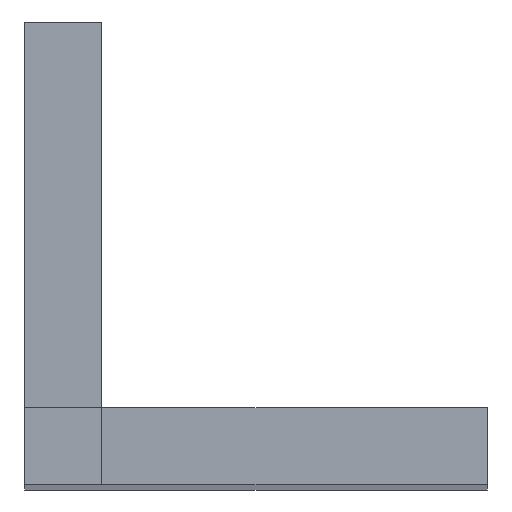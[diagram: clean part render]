
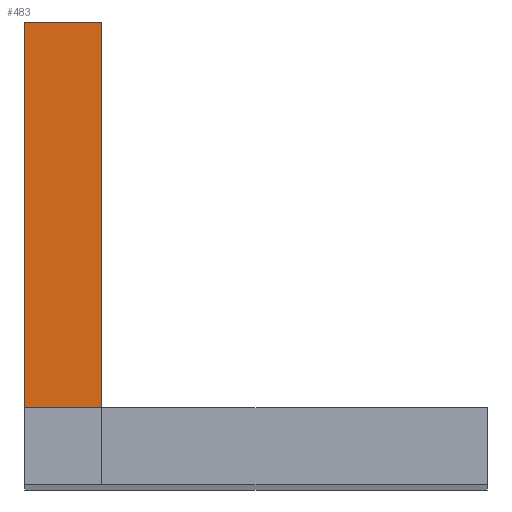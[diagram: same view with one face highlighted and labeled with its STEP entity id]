
A CAD part, top view. The second image highlights one B-rep face of the part: STEP entity #483.
In plain terms, the highlighted planar face has unit normal (0, 0, 1).
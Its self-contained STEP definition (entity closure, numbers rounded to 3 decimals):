
#85 = VERTEX_POINT('',#86);
#86 = CARTESIAN_POINT('',(0.,2.,80.));
#100 = PLANE('',#101);
#101 = AXIS2_PLACEMENT_3D('',#102,#103,#104);
#102 = CARTESIAN_POINT('',(0.,0.,0.));
#103 = DIRECTION('',(1.,0.,0.));
#104 = DIRECTION('',(0.,0.,1.));
#126 = PLANE('',#127);
#127 = AXIS2_PLACEMENT_3D('',#128,#129,#130);
#128 = CARTESIAN_POINT('',(0.,0.,80.));
#129 = DIRECTION('',(0.,0.,1.));
#130 = DIRECTION('',(1.,0.,0.));
#220 = VERTEX_POINT('',#221);
#221 = CARTESIAN_POINT('',(2.,2.,80.));
#247 = EDGE_CURVE('',#85,#220,#248,.T.);
#248 = SURFACE_CURVE('',#249,(#253,#260),.PCURVE_S1.);
#249 = LINE('',#250,#251);
#250 = CARTESIAN_POINT('',(0.,2.,80.));
#251 = VECTOR('',#252,1.);
#252 = DIRECTION('',(1.,0.,0.));
#253 = PCURVE('',#126,#254);
#254 = DEFINITIONAL_REPRESENTATION('',(#255),#259);
#255 = LINE('',#256,#257);
#256 = CARTESIAN_POINT('',(0.,2.));
#257 = VECTOR('',#258,1.);
#258 = DIRECTION('',(1.,0.));
#259 = ( GEOMETRIC_REPRESENTATION_CONTEXT(2) 
PARAMETRIC_REPRESENTATION_CONTEXT() REPRESENTATION_CONTEXT('2D SPACE',''
  ) );
#260 = PCURVE('',#261,#266);
#261 = PLANE('',#262);
#262 = AXIS2_PLACEMENT_3D('',#263,#264,#265);
#263 = CARTESIAN_POINT('',(0.,0.,80.));
#264 = DIRECTION('',(0.,0.,1.));
#265 = DIRECTION('',(1.,0.,0.));
#266 = DEFINITIONAL_REPRESENTATION('',(#267),#271);
#267 = LINE('',#268,#269);
#268 = CARTESIAN_POINT('',(0.,2.));
#269 = VECTOR('',#270,1.);
#270 = DIRECTION('',(1.,0.));
#271 = ( GEOMETRIC_REPRESENTATION_CONTEXT(2) 
PARAMETRIC_REPRESENTATION_CONTEXT() REPRESENTATION_CONTEXT('2D SPACE',''
  ) );
#306 = VERTEX_POINT('',#307);
#307 = CARTESIAN_POINT('',(0.,12.,80.));
#321 = PLANE('',#322);
#322 = AXIS2_PLACEMENT_3D('',#323,#324,#325);
#323 = CARTESIAN_POINT('',(0.,12.,0.));
#324 = DIRECTION('',(0.,1.,0.));
#325 = DIRECTION('',(0.,0.,1.));
#333 = EDGE_CURVE('',#85,#306,#334,.T.);
#334 = SURFACE_CURVE('',#335,(#339,#346),.PCURVE_S1.);
#335 = LINE('',#336,#337);
#336 = CARTESIAN_POINT('',(0.,0.,80.));
#337 = VECTOR('',#338,1.);
#338 = DIRECTION('',(0.,1.,0.));
#339 = PCURVE('',#100,#340);
#340 = DEFINITIONAL_REPRESENTATION('',(#341),#345);
#341 = LINE('',#342,#343);
#342 = CARTESIAN_POINT('',(80.,0.));
#343 = VECTOR('',#344,1.);
#344 = DIRECTION('',(0.,-1.));
#345 = ( GEOMETRIC_REPRESENTATION_CONTEXT(2) 
PARAMETRIC_REPRESENTATION_CONTEXT() REPRESENTATION_CONTEXT('2D SPACE',''
  ) );
#346 = PCURVE('',#261,#347);
#347 = DEFINITIONAL_REPRESENTATION('',(#348),#352);
#348 = LINE('',#349,#350);
#349 = CARTESIAN_POINT('',(0.,0.));
#350 = VECTOR('',#351,1.);
#351 = DIRECTION('',(0.,1.));
#352 = ( GEOMETRIC_REPRESENTATION_CONTEXT(2) 
PARAMETRIC_REPRESENTATION_CONTEXT() REPRESENTATION_CONTEXT('2D SPACE',''
  ) );
#483 = ADVANCED_FACE('',(#484),#261,.T.);
#484 = FACE_BOUND('',#485,.T.);
#485 = EDGE_LOOP('',(#486,#487,#488,#516));
#486 = ORIENTED_EDGE('',*,*,#333,.F.);
#487 = ORIENTED_EDGE('',*,*,#247,.T.);
#488 = ORIENTED_EDGE('',*,*,#489,.T.);
#489 = EDGE_CURVE('',#220,#490,#492,.T.);
#490 = VERTEX_POINT('',#491);
#491 = CARTESIAN_POINT('',(2.,12.,80.));
#492 = SURFACE_CURVE('',#493,(#497,#504),.PCURVE_S1.);
#493 = LINE('',#494,#495);
#494 = CARTESIAN_POINT('',(2.,0.,80.));
#495 = VECTOR('',#496,1.);
#496 = DIRECTION('',(0.,1.,0.));
#497 = PCURVE('',#261,#498);
#498 = DEFINITIONAL_REPRESENTATION('',(#499),#503);
#499 = LINE('',#500,#501);
#500 = CARTESIAN_POINT('',(2.,0.));
#501 = VECTOR('',#502,1.);
#502 = DIRECTION('',(0.,1.));
#503 = ( GEOMETRIC_REPRESENTATION_CONTEXT(2) 
PARAMETRIC_REPRESENTATION_CONTEXT() REPRESENTATION_CONTEXT('2D SPACE',''
  ) );
#504 = PCURVE('',#505,#510);
#505 = PLANE('',#506);
#506 = AXIS2_PLACEMENT_3D('',#507,#508,#509);
#507 = CARTESIAN_POINT('',(2.,0.,0.));
#508 = DIRECTION('',(1.,0.,0.));
#509 = DIRECTION('',(0.,0.,1.));
#510 = DEFINITIONAL_REPRESENTATION('',(#511),#515);
#511 = LINE('',#512,#513);
#512 = CARTESIAN_POINT('',(80.,0.));
#513 = VECTOR('',#514,1.);
#514 = DIRECTION('',(0.,-1.));
#515 = ( GEOMETRIC_REPRESENTATION_CONTEXT(2) 
PARAMETRIC_REPRESENTATION_CONTEXT() REPRESENTATION_CONTEXT('2D SPACE',''
  ) );
#516 = ORIENTED_EDGE('',*,*,#517,.F.);
#517 = EDGE_CURVE('',#306,#490,#518,.T.);
#518 = SURFACE_CURVE('',#519,(#523,#530),.PCURVE_S1.);
#519 = LINE('',#520,#521);
#520 = CARTESIAN_POINT('',(0.,12.,80.));
#521 = VECTOR('',#522,1.);
#522 = DIRECTION('',(1.,0.,0.));
#523 = PCURVE('',#261,#524);
#524 = DEFINITIONAL_REPRESENTATION('',(#525),#529);
#525 = LINE('',#526,#527);
#526 = CARTESIAN_POINT('',(0.,12.));
#527 = VECTOR('',#528,1.);
#528 = DIRECTION('',(1.,0.));
#529 = ( GEOMETRIC_REPRESENTATION_CONTEXT(2) 
PARAMETRIC_REPRESENTATION_CONTEXT() REPRESENTATION_CONTEXT('2D SPACE',''
  ) );
#530 = PCURVE('',#321,#531);
#531 = DEFINITIONAL_REPRESENTATION('',(#532),#536);
#532 = LINE('',#533,#534);
#533 = CARTESIAN_POINT('',(80.,0.));
#534 = VECTOR('',#535,1.);
#535 = DIRECTION('',(0.,1.));
#536 = ( GEOMETRIC_REPRESENTATION_CONTEXT(2) 
PARAMETRIC_REPRESENTATION_CONTEXT() REPRESENTATION_CONTEXT('2D SPACE',''
  ) );
